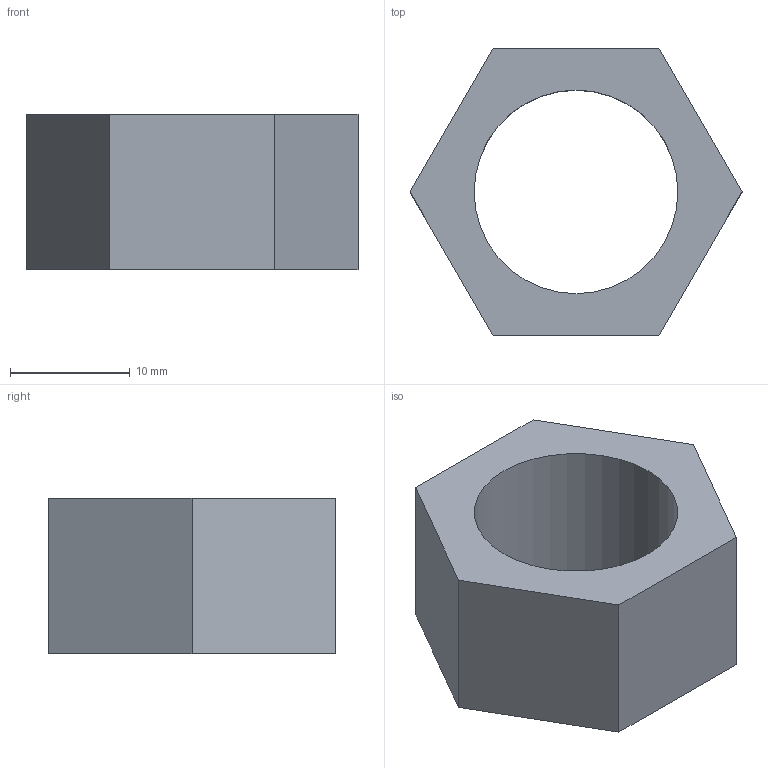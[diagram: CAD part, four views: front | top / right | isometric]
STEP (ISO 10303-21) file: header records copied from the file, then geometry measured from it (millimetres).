
FILE_DESCRIPTION(('Open CASCADE Model'),'2;1');
FILE_NAME('Open CASCADE Shape Model','2026-10-15T15:10:05',('Author'),( 'Open CASCADE'),'Open CASCADE STEP processor 8.0','Open CASCADE 8.0' ,'Unknown');
FILE_SCHEMA(('AUTOMOTIVE_DESIGN { 1 0 10303 214 1 1 1 1 }'));
Length unit declared in the file: millimetre
Products named in the file (1): ANCLA_TUERCA_M16_AF24_H13_REF 133
Bounding box: 27.71 x 24 x 13 mm (x, y, z)
Volume: 3534.1 mm3; surface area: 2318.8 mm2
Topology: 1 solids, 1 shells, 9 faces, 21 edges, 14 vertices
Faces by surface type: plane 8, cylinder 1
Full cylindrical faces by diameter (mm): 17 x1
Entity records: 544 total; most frequent: CARTESIAN_POINT 87, DIRECTION 85, LINE 59, VECTOR 59, ORIENTED_EDGE 42, PCURVE 42, DEFINITIONAL_REPRESENTATION 42, EDGE_CURVE 21
